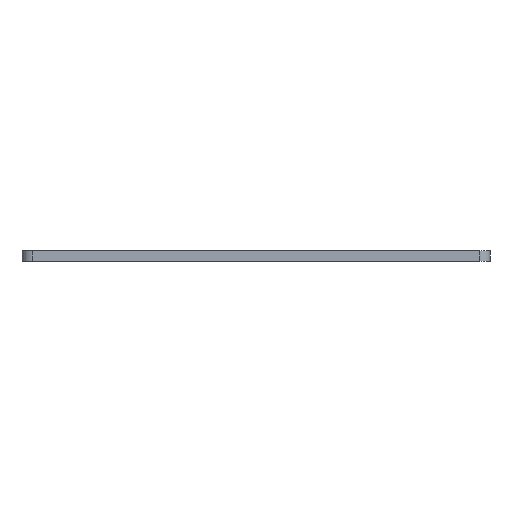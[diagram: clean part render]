
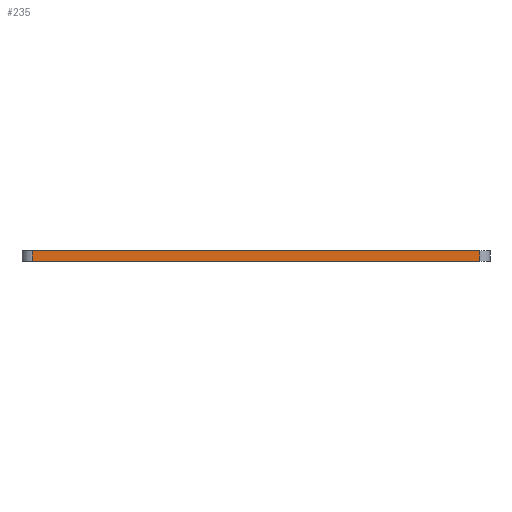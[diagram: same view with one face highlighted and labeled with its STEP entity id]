
A CAD part, front view. The second image highlights one B-rep face of the part: STEP entity #235.
In plain terms, the highlighted planar face has unit normal (0, -1, 0).
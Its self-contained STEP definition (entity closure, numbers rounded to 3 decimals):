
#59 = CARTESIAN_POINT ( 'NONE',  ( -27.655, -23.58, 0. ) ) ;
#96 = LINE ( 'NONE', #59, #437 ) ;
#136 = CARTESIAN_POINT ( 'NONE',  ( -24.655, -23.58, 0. ) ) ;
#138 = EDGE_CURVE ( 'NONE', #192, #181, #847, .T. ) ;
#173 = PLANE ( 'NONE',  #659 ) ;
#181 = VERTEX_POINT ( 'NONE', #504 ) ;
#192 = VERTEX_POINT ( 'NONE', #299 ) ;
#230 = DIRECTION ( 'NONE',  ( 0., 0., 1. ) ) ;
#235 = ADVANCED_FACE ( 'NONE', ( #411 ), #173, .F. ) ;
#241 = DIRECTION ( 'NONE',  ( 0., 0., 1. ) ) ;
#282 = CARTESIAN_POINT ( 'NONE',  ( -27.655, -23.58, 3. ) ) ;
#299 = CARTESIAN_POINT ( 'NONE',  ( 103.345, -23.58, 0. ) ) ;
#302 = VECTOR ( 'NONE', #540, 1000. ) ;
#325 = LINE ( 'NONE', #400, #302 ) ;
#347 = LINE ( 'NONE', #282, #701 ) ;
#361 = ORIENTED_EDGE ( 'NONE', *, *, #829, .T. ) ;
#400 = CARTESIAN_POINT ( 'NONE',  ( -24.655, -23.58, 3. ) ) ;
#411 = FACE_OUTER_BOUND ( 'NONE', #807, .T. ) ;
#433 = VERTEX_POINT ( 'NONE', #864 ) ;
#437 = VECTOR ( 'NONE', #875, 1000. ) ;
#498 = CARTESIAN_POINT ( 'NONE',  ( 103.345, -23.58, 3. ) ) ;
#504 = CARTESIAN_POINT ( 'NONE',  ( 103.345, -23.58, 3. ) ) ;
#540 = DIRECTION ( 'NONE',  ( 0., 0., -1. ) ) ;
#628 = ORIENTED_EDGE ( 'NONE', *, *, #863, .T. ) ;
#633 = ORIENTED_EDGE ( 'NONE', *, *, #759, .F. ) ;
#640 = DIRECTION ( 'NONE',  ( 0., 1., 0. ) ) ;
#659 = AXIS2_PLACEMENT_3D ( 'NONE', #771, #640, #241 ) ;
#669 = VECTOR ( 'NONE', #230, 1000. ) ;
#688 = ORIENTED_EDGE ( 'NONE', *, *, #138, .T. ) ;
#701 = VECTOR ( 'NONE', #747, 1000. ) ;
#747 = DIRECTION ( 'NONE',  ( 1., 0., 0. ) ) ;
#755 = VERTEX_POINT ( 'NONE', #136 ) ;
#759 = EDGE_CURVE ( 'NONE', #433, #181, #347, .T. ) ;
#771 = CARTESIAN_POINT ( 'NONE',  ( -27.655, -23.58, 3. ) ) ;
#807 = EDGE_LOOP ( 'NONE', ( #633, #361, #628, #688 ) ) ;
#829 = EDGE_CURVE ( 'NONE', #433, #755, #325, .T. ) ;
#847 = LINE ( 'NONE', #498, #669 ) ;
#863 = EDGE_CURVE ( 'NONE', #755, #192, #96, .T. ) ;
#864 = CARTESIAN_POINT ( 'NONE',  ( -24.655, -23.58, 3. ) ) ;
#875 = DIRECTION ( 'NONE',  ( 1., 0., 0. ) ) ;
